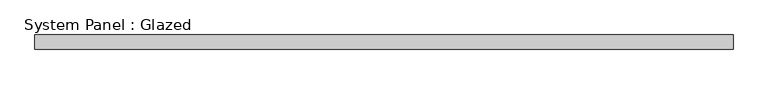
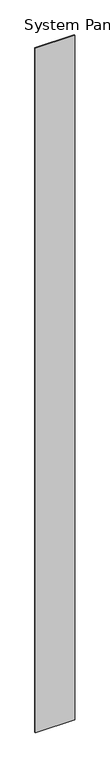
"""IFC4 building model written with IfcOpenShell, lengths in millimetres: plate geometry, System Panel : Glazed."""

from ifc_helpers import new_model, si_unit, origin, origin_with_axes, place, context, project, spatial, polyline, outline, extrude, source, transform, mapped, element, save


def system_panel_glazed_f909c4d5(model_context):
    return source(origin(), model_context, "Body", "SweptSolid", [
        extrude(outline(polyline([(600.0, 24.5), (-600.0, 24.5), (-600.0, 49.5), (600.0, 49.5), (600.0, 24.5)])), origin_with_axes(), (0.0, 0.0, 1.0), 22064.4651775),
    ])


if __name__ == "__main__":
    model = new_model("IFC4")
    model_context = context("Model", 3, world=origin())
    ifc_project = project(units=[si_unit("LENGTHUNIT", "METRE", prefix="MILLI")], contexts=[model_context])
    site = spatial("IfcSite", under=ifc_project)
    building = spatial("IfcBuilding", under=site)
    placement = place(None, origin())
    system_panel_glazed_shape = system_panel_glazed_f909c4d5(model_context)
    element("IfcPlate", 1, ObjectType="System Panel : Glazed", at=placement, inside=building, context=model_context, shape_type="MappedRepresentation", body=[
        mapped(system_panel_glazed_shape, transform((0.0, 0.0, 0.0), x_axis=(1.0, 0.0, 0.0), y_axis=(0.0, 1.0, 0.0), z_axis=(0.0, 0.0, 1.0))),
    ])
    save(model, "model.ifc")
